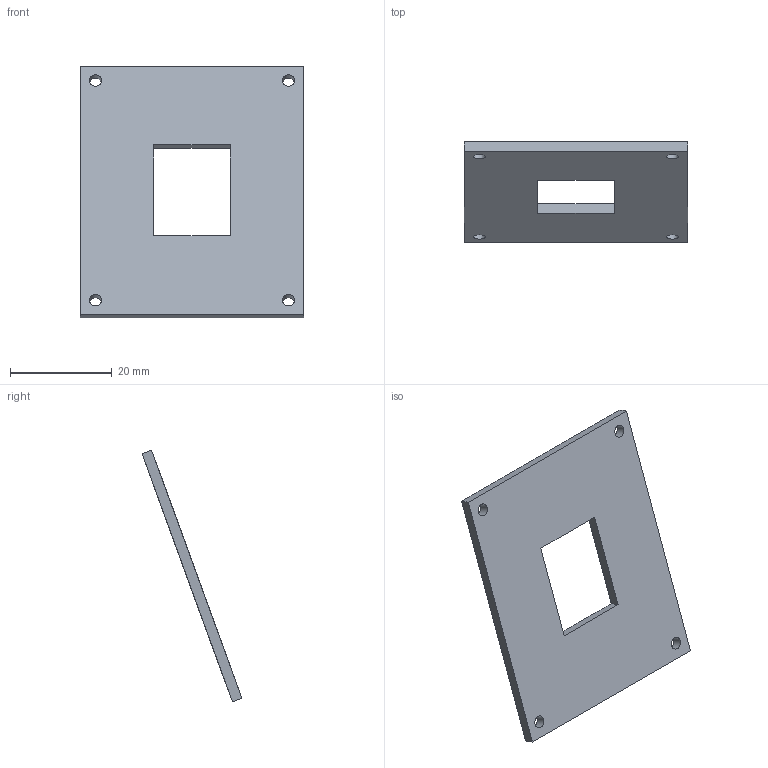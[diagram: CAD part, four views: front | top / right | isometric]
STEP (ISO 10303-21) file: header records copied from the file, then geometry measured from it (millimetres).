
FILE_DESCRIPTION(('Open CASCADE Model'),'2;1');
FILE_NAME('Open CASCADE Shape Model','2026-10-07T20:49:38',('Author'),( 'Open CASCADE'),'Open CASCADE STEP processor 7.9','Open CASCADE 7.9' ,'Unknown');
FILE_SCHEMA(('AUTOMOTIVE_DESIGN { 1 0 10303 214 1 1 1 1 }'));
Length unit declared in the file: millimetre
Products named in the file (1): Open CASCADE STEP translator 7.9 6
Bounding box: 44 x 19.66 x 49.55 mm (x, y, z)
Volume: 3969.8 mm3; surface area: 4550.1 mm2
Topology: 1 solids, 1 shells, 14 faces, 36 edges, 24 vertices
Faces by surface type: plane 10, cylinder 4
Full cylindrical faces by diameter (mm): 2.4 x4
Entity records: 910 total; most frequent: CARTESIAN_POINT 163, DIRECTION 130, LINE 76, VECTOR 76, ORIENTED_EDGE 72, PCURVE 72, DEFINITIONAL_REPRESENTATION 72, EDGE_CURVE 36
